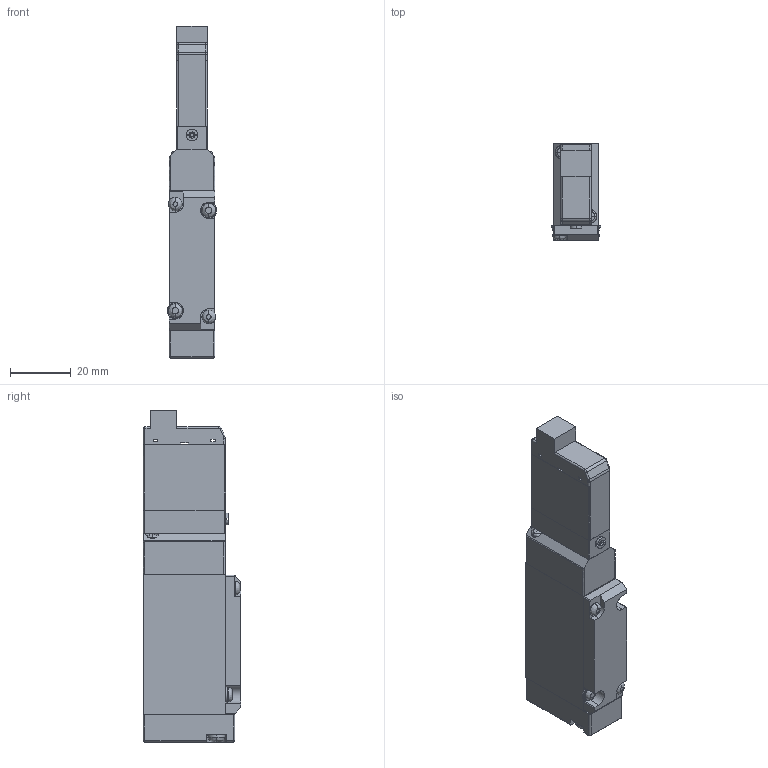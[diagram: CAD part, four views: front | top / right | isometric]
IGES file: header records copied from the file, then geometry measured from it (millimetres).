
Start section: ------------------------------------------------------------------------
Global section: file name: D:\ICADMX\tmp\trans3d_spg\CVICAD02.7120.F15T0-A1-PN_16671.igs; native system: spGate; preprocessor: ver12.6.6; author: Unknown; organization: Unknown; date: 210712.184813; units: millimetre
Bounding box: 16.2 x 32 x 109 mm (x, y, z)
Volume: 40107.7 mm3; surface area: 15333.5 mm2
Topology: 6 solids, 6 shells, 264 faces, 666 edges, 421 vertices
Faces by surface type: bspline 264
